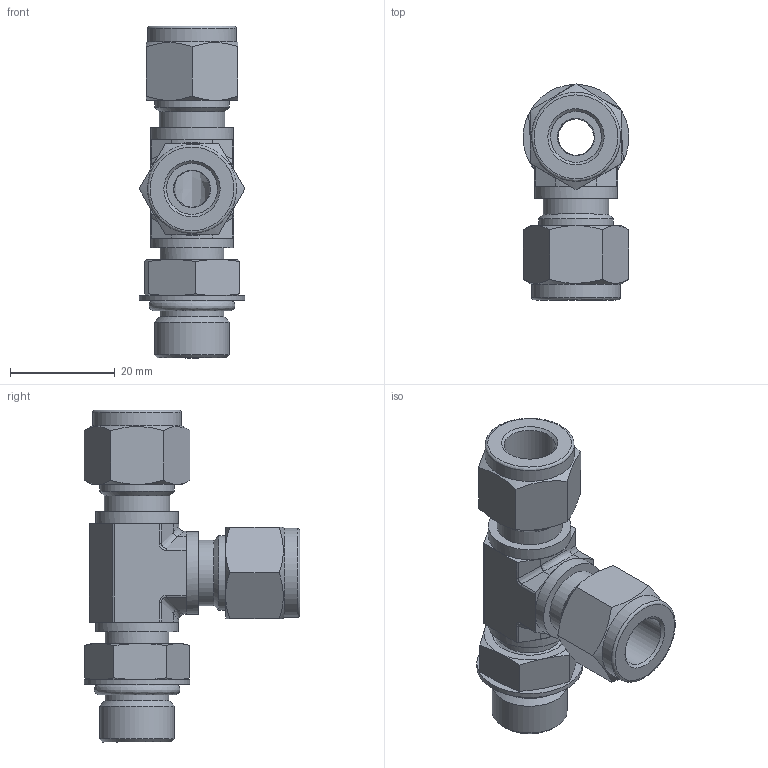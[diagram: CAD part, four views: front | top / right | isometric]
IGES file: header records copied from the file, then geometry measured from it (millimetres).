
Global section: file name: SPMRT-6-6U; native system: Autodesk Inventor 2016; preprocessor: unknown; author: DESIGNPC2; date: 20160315.093054; units: millimetre
Bounding box: 20.21 x 41.22 x 63.41 mm (x, y, z)
Volume: 13966.9 mm3; surface area: 9297.6 mm2
Topology: 4 solids, 4 shells, 148 faces, 367 edges, 237 vertices
Faces by surface type: bspline 148
